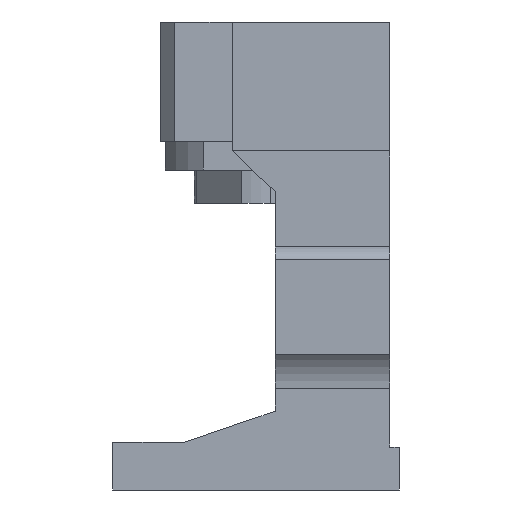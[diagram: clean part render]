
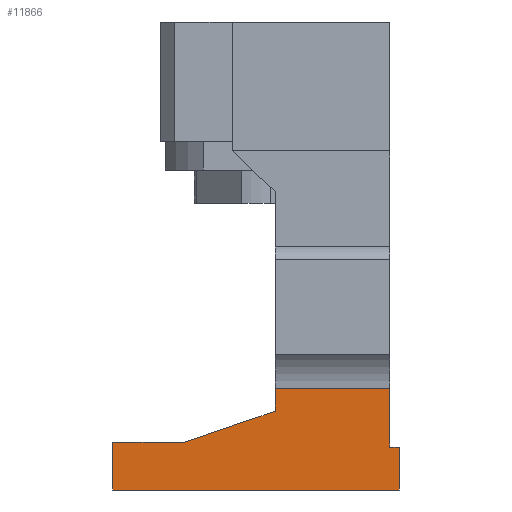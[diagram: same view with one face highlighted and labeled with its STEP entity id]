
A CAD part, left-side view. The second image highlights one B-rep face of the part: STEP entity #11866.
In plain terms, the highlighted planar face has unit normal (-1, 0, 0).
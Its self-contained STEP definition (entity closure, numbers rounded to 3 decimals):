
#107 = FACE_OUTER_BOUND ( 'NONE', #1113, .T. ) ;
#371 = LINE ( 'NONE', #13062, #2474 ) ;
#452 = PLANE ( 'NONE',  #7331 ) ;
#664 = ORIENTED_EDGE ( 'NONE', *, *, #7774, .T. ) ;
#927 = CARTESIAN_POINT ( 'NONE',  ( -32., -30., -83. ) ) ;
#1080 = CARTESIAN_POINT ( 'NONE',  ( -32., -28., -83. ) ) ;
#1113 = EDGE_LOOP ( 'NONE', ( #3397, #3413, #4449, #10883, #10310, #2735, #664, #3591, #7684 ) ) ;
#1240 = VECTOR ( 'NONE', #3919, 1000. ) ;
#1281 = CARTESIAN_POINT ( 'NONE',  ( -32., 15., -82. ) ) ;
#1385 = VECTOR ( 'NONE', #7382, 1000. ) ;
#1788 = EDGE_CURVE ( 'NONE', #8952, #2185, #3658, .T. ) ;
#2185 = VERTEX_POINT ( 'NONE', #4024 ) ;
#2474 = VECTOR ( 'NONE', #4643, 1000. ) ;
#2735 = ORIENTED_EDGE ( 'NONE', *, *, #5520, .F. ) ;
#2902 = EDGE_CURVE ( 'NONE', #11628, #9012, #4495, .T. ) ;
#3007 = VECTOR ( 'NONE', #3073, 1000. ) ;
#3013 = CARTESIAN_POINT ( 'NONE',  ( -32., 30., -92. ) ) ;
#3073 = DIRECTION ( 'NONE',  ( 0., -0.946, 0.324 ) ) ;
#3239 = VERTEX_POINT ( 'NONE', #12402 ) ;
#3397 = ORIENTED_EDGE ( 'NONE', *, *, #6194, .T. ) ;
#3413 = ORIENTED_EDGE ( 'NONE', *, *, #11999, .F. ) ;
#3591 = ORIENTED_EDGE ( 'NONE', *, *, #2902, .T. ) ;
#3596 = DIRECTION ( 'NONE',  ( 1., 0., 0. ) ) ;
#3658 = LINE ( 'NONE', #4130, #3007 ) ;
#3919 = DIRECTION ( 'NONE',  ( 0., 0., -1. ) ) ;
#4021 = LINE ( 'NONE', #11211, #1240 ) ;
#4024 = CARTESIAN_POINT ( 'NONE',  ( -32., -4., -75.5 ) ) ;
#4130 = CARTESIAN_POINT ( 'NONE',  ( -32., 15., -82. ) ) ;
#4281 = LINE ( 'NONE', #10000, #12315 ) ;
#4449 = ORIENTED_EDGE ( 'NONE', *, *, #12176, .T. ) ;
#4493 = EDGE_CURVE ( 'NONE', #13570, #2185, #371, .T. ) ;
#4495 = LINE ( 'NONE', #7776, #1385 ) ;
#4531 = EDGE_CURVE ( 'NONE', #11631, #9012, #8069, .T. ) ;
#4643 = DIRECTION ( 'NONE',  ( 0., 0., -1. ) ) ;
#5315 = CARTESIAN_POINT ( 'NONE',  ( -32., -4., -70.734 ) ) ;
#5520 = EDGE_CURVE ( 'NONE', #3239, #8952, #4281, .T. ) ;
#5757 = DIRECTION ( 'NONE',  ( 0., 0., -1. ) ) ;
#6194 = EDGE_CURVE ( 'NONE', #11631, #11098, #10660, .T. ) ;
#7331 = AXIS2_PLACEMENT_3D ( 'NONE', #13025, #3596, #10940 ) ;
#7382 = DIRECTION ( 'NONE',  ( 0., -1., 0. ) ) ;
#7547 = DIRECTION ( 'NONE',  ( 0., 0., -1. ) ) ;
#7618 = CARTESIAN_POINT ( 'NONE',  ( -32., -30., -83. ) ) ;
#7684 = ORIENTED_EDGE ( 'NONE', *, *, #4531, .F. ) ;
#7774 = EDGE_CURVE ( 'NONE', #3239, #11628, #13549, .T. ) ;
#7776 = CARTESIAN_POINT ( 'NONE',  ( -32., -30., -92. ) ) ;
#7847 = VECTOR ( 'NONE', #8672, 1000. ) ;
#8069 = LINE ( 'NONE', #13102, #10205 ) ;
#8612 = LINE ( 'NONE', #5315, #10422 ) ;
#8672 = DIRECTION ( 'NONE',  ( 0., 1., 0. ) ) ;
#8676 = CARTESIAN_POINT ( 'NONE',  ( -32., -28., -70.734 ) ) ;
#8945 = DIRECTION ( 'NONE',  ( 0., -1., 0. ) ) ;
#8952 = VERTEX_POINT ( 'NONE', #1281 ) ;
#9012 = VERTEX_POINT ( 'NONE', #13197 ) ;
#10000 = CARTESIAN_POINT ( 'NONE',  ( -32., -30., -82. ) ) ;
#10205 = VECTOR ( 'NONE', #5757, 1000. ) ;
#10310 = ORIENTED_EDGE ( 'NONE', *, *, #1788, .F. ) ;
#10422 = VECTOR ( 'NONE', #12611, 1000. ) ;
#10494 = CARTESIAN_POINT ( 'NONE',  ( -32., 30., -82. ) ) ;
#10660 = LINE ( 'NONE', #7618, #7847 ) ;
#10717 = VECTOR ( 'NONE', #7547, 1000. ) ;
#10883 = ORIENTED_EDGE ( 'NONE', *, *, #4493, .T. ) ;
#10940 = DIRECTION ( 'NONE',  ( 0., 0., -1. ) ) ;
#11098 = VERTEX_POINT ( 'NONE', #1080 ) ;
#11211 = CARTESIAN_POINT ( 'NONE',  ( -32., -28., -82. ) ) ;
#11628 = VERTEX_POINT ( 'NONE', #3013 ) ;
#11631 = VERTEX_POINT ( 'NONE', #927 ) ;
#11866 = ADVANCED_FACE ( 'NONE', ( #107 ), #452, .F. ) ;
#11999 = EDGE_CURVE ( 'NONE', #12612, #11098, #4021, .T. ) ;
#12176 = EDGE_CURVE ( 'NONE', #12612, #13570, #8612, .T. ) ;
#12315 = VECTOR ( 'NONE', #8945, 1000. ) ;
#12370 = CARTESIAN_POINT ( 'NONE',  ( -32., -4., -70.734 ) ) ;
#12402 = CARTESIAN_POINT ( 'NONE',  ( -32., 30., -82. ) ) ;
#12611 = DIRECTION ( 'NONE',  ( 0., 1., 0. ) ) ;
#12612 = VERTEX_POINT ( 'NONE', #8676 ) ;
#13025 = CARTESIAN_POINT ( 'NONE',  ( -32., -30., -82. ) ) ;
#13062 = CARTESIAN_POINT ( 'NONE',  ( -32., -4., -57. ) ) ;
#13102 = CARTESIAN_POINT ( 'NONE',  ( -32., -30., -82. ) ) ;
#13197 = CARTESIAN_POINT ( 'NONE',  ( -32., -30., -92. ) ) ;
#13549 = LINE ( 'NONE', #10494, #10717 ) ;
#13570 = VERTEX_POINT ( 'NONE', #12370 ) ;
